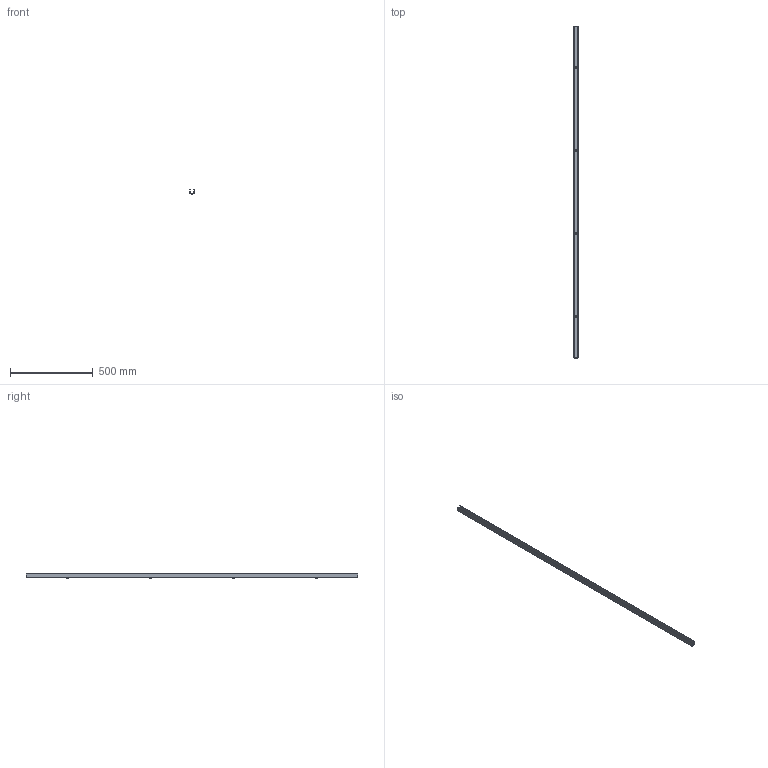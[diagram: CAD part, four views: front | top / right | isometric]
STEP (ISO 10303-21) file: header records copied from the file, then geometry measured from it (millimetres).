
FILE_DESCRIPTION(/* description */ ('Bodenfuehrungsschiene Nr.19 / 2m'),/* implementation_level */ '2;1');
FILE_NAME(/* name */ 'D:\Public\STP\010337124-TP.stp',/* time_stamp */ '2020-05-13T15:24:50+02:00',/* author */ ('H.Lesti'),/* organization */ (''),/* preprocessor_version */ 'ST-DEVELOPER v17.2',/* originating_system */ 'Autodesk Inventor 2019',/* authorisation */ '');
FILE_SCHEMA (('AUTOMOTIVE_DESIGN { 1 0 10303 214 3 1 1 }'));
Length unit declared in the file: millimetre
Products named in the file (1): 010337124
Bounding box: 25 x 2000 x 26.5 mm (x, y, z)
Volume: 277005.2 mm3; surface area: 285437.9 mm2
Topology: 1 solids, 1 shells, 51 faces, 120 edges, 76 vertices
Faces by surface type: plane 27, torus 8, cone 8, cylinder 8
Full cylindrical faces by diameter (mm): 6 x4
Entity records: 1535 total; most frequent: DIRECTION 284, CARTESIAN_POINT 248, ORIENTED_EDGE 240, EDGE_CURVE 120, AXIS2_PLACEMENT_3D 112, VERTEX_POINT 76, EDGE_LOOP 64, CIRCLE 60
